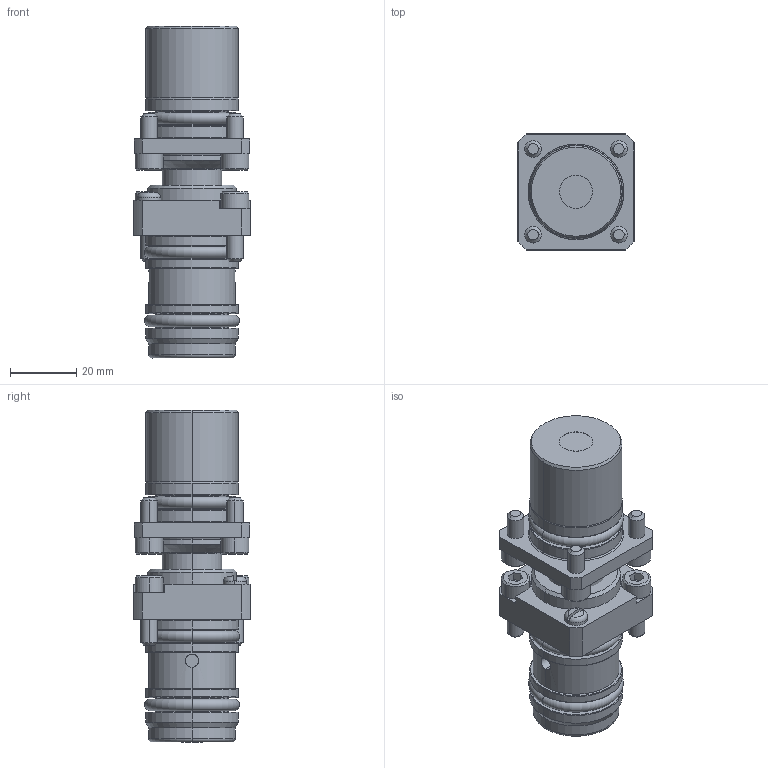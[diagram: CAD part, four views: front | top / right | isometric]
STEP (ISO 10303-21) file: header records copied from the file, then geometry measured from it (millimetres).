
FILE_DESCRIPTION (( 'STEP AP203' ), '1' );
FILE_NAME ('BGP221-0_BGS221-0.step', '2010-03-15T09:54:53', ( ' ' ), ( ' ' ), 'SwSTEP 2.0', 'SolidWorks 2009', '' );
FILE_SCHEMA (( 'CONFIG_CONTROL_DESIGN' ));
Length unit declared in the file: millimetre
Products named in the file (3): BGP221-0_BGS221-0.sldasm-Part-1; BGP221-0_BGS221-0.sldasm-Part-2; BGP221-0_BGS221-0
Assembly tree (2 placements, depth 2):
  BGP221-0_BGS221-0
    BGP221-0_BGS221-0.sldasm-Part-1
    BGP221-0_BGS221-0.sldasm-Part-2
Bounding box: 35 x 35 x 100 mm (x, y, z)
Volume: 67729.7 mm3; surface area: 18216.8 mm2
Topology: 2 solids, 2 shells, 269 faces, 588 edges, 364 vertices
Faces by surface type: plane 101, cylinder 76, torus 46, cone 42, sphere 4
Entity records: 7857 total; most frequent: DIRECTION 1426, CARTESIAN_POINT 1410, ORIENTED_EDGE 1176, EDGE_CURVE 588, AXIS2_PLACEMENT_3D 576, VERTEX_POINT 364, EDGE_LOOP 310, CIRCLE 302
